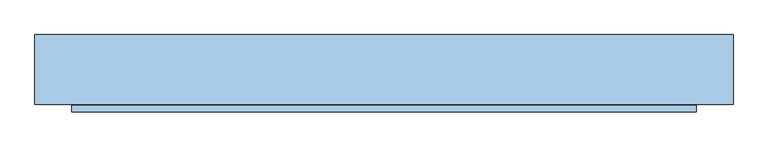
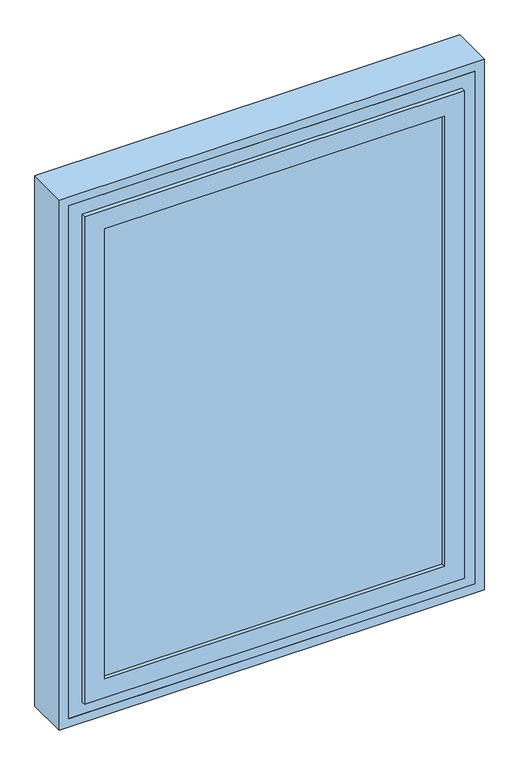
"""IFC4 building model written with IfcOpenShell, lengths in millimetres: window geometry, Окно 1-Распашное - Разделенные наружные и парные внутренние переплеты с остеклением - ГОСТ 11214-2003 : ОД РСП Г1 1760-1320-138 ГОСТ 11214-2003."""

from ifc_helpers import new_model, si_unit, frame, origin, place, context, project, spatial, polyline, outline, extrude, faceted_brep, source, transform, mapped, element, save


def window_d8f3b313(model_context):
    return source(origin(), model_context, "Body", "SolidModel", [
        extrude(outline(polyline([(2620.0, -710.0), (800.0, -710.0), (800.0, 670.0), (2620.0, 670.0), (2620.0, -710.0)]), holes=[polyline([(2590.0, 640.0), (830.0, 640.0), (830.0, -680.0), (2590.0, -680.0), (2590.0, 640.0)])]), frame((0.0, 167.0, 0.0), z_axis=(0.0, 1.0, 0.0), x_axis=(0.0, 0.0, 1.0)), (0.0, 0.0, 1.0), 138.0),
        extrude(outline(polyline([(-579.0, 271.0), (-579.0, 274.0), (539.0, 274.0), (539.0, 271.0), (-579.0, 271.0)])), frame((0.0, 0.0, 931.0), z_axis=(0.0, 0.0, 1.0), x_axis=(1.0, 0.0, 0.0)), (0.0, 0.0, 1.0), 1558.0),
        extrude(outline(polyline([(-592.0, 212.0), (-592.0, 215.0), (552.0, 215.0), (552.0, 212.0), (-592.0, 212.0)])), frame((0.0, 0.0, 918.0), z_axis=(0.0, 0.0, 1.0), x_axis=(1.0, 0.0, 0.0)), (0.0, 0.0, 1.0), 1584.0),
        extrude(outline(polyline([(-592.0, 165.0), (-592.0, 168.0), (552.0, 168.0), (552.0, 165.0), (-592.0, 165.0)])), frame((0.0, 0.0, 918.0), z_axis=(0.0, 0.0, 1.0), x_axis=(1.0, 0.0, 0.0)), (0.0, 0.0, 1.0), 1584.0),
        faceted_brep([(584.0, 259.0, 2534.0), (584.0, 246.0, 2534.0), (584.0, 246.0, 886.0), (584.0, 259.0, 886.0), (-624.0, 246.0, 2534.0), (-624.0, 246.0, 886.0), (519.0, 246.0, 951.0), (-559.0, 246.0, 951.0), (-559.0, 246.0, 2469.0), (519.0, 246.0, 2469.0), (-624.0, 259.0, 886.0), (-624.0, 259.0, 2534.0), (575.0, 259.0, 2525.0), (-615.0, 259.0, 2525.0), (-615.0, 259.0, 895.0), (575.0, 259.0, 895.0), (575.0, 287.0, 2525.0), (575.0, 287.0, 895.0), (-615.0, 287.0, 895.0), (-615.0, 287.0, 2525.0), (519.0, 287.0, 2469.0), (-559.0, 287.0, 2469.0), (-559.0, 287.0, 951.0), (519.0, 287.0, 951.0), (519.0, 271.0, 2469.0), (519.0, 271.0, 951.0), (539.0, 271.0, 931.0), (-579.0, 271.0, 931.0), (-579.0, 271.0, 2489.0), (539.0, 271.0, 2489.0), (-559.0, 271.0, 2469.0), (-559.0, 271.0, 951.0), (-559.0, 274.0, 951.0), (-559.0, 274.0, 2469.0), (519.0, 274.0, 951.0), (519.0, 274.0, 2469.0), (539.0, 274.0, 2489.0), (-579.0, 274.0, 2489.0), (-579.0, 274.0, 931.0), (539.0, 274.0, 931.0)], [[[0, 1, 2, 3]], [[1, 4, 5, 2], [6, 7, 8, 9]], [[3, 2, 5, 10]], [[3, 10, 11, 0], [12, 13, 14, 15]], [[16, 12, 15, 17]], [[17, 15, 14, 18]], [[17, 18, 19, 16], [20, 21, 22, 23]], [[9, 24, 25, 6]], [[26, 27, 28, 29], [24, 30, 31, 25]], [[6, 25, 31, 7]], [[10, 5, 4, 11]], [[18, 14, 13, 19]], [[7, 31, 30, 8]], [[32, 22, 21, 33]], [[34, 23, 22, 32]], [[35, 20, 23, 34]], [[36, 37, 38, 39], [34, 32, 33, 35]], [[29, 36, 39, 26]], [[26, 39, 38, 27]], [[27, 38, 37, 28]], [[11, 4, 1, 0]], [[19, 13, 12, 16]], [[8, 30, 24, 9]], [[33, 21, 20, 35]], [[28, 37, 36, 29]]]),
        faceted_brep([(587.0, 228.0, 2537.0), (587.0, 196.0, 2537.0), (587.0, 196.0, 883.0), (587.0, 228.0, 883.0), (-627.0, 196.0, 2537.0), (-627.0, 196.0, 883.0), (532.0, 196.0, 938.0), (-572.0, 196.0, 938.0), (-572.0, 196.0, 2482.0), (532.0, 196.0, 2482.0), (-627.0, 228.0, 883.0), (-627.0, 228.0, 2537.0), (532.0, 228.0, 2482.0), (-572.0, 228.0, 2482.0), (-572.0, 228.0, 938.0), (532.0, 228.0, 938.0), (532.0, 212.0, 2482.0), (532.0, 212.0, 938.0), (552.0, 212.0, 918.0), (-592.0, 212.0, 918.0), (-592.0, 212.0, 2502.0), (552.0, 212.0, 2502.0), (-572.0, 212.0, 2482.0), (-572.0, 212.0, 938.0), (-572.0, 215.0, 938.0), (-572.0, 215.0, 2482.0), (532.0, 215.0, 938.0), (532.0, 215.0, 2482.0), (552.0, 215.0, 2502.0), (-592.0, 215.0, 2502.0), (-592.0, 215.0, 918.0), (552.0, 215.0, 918.0)], [[[0, 1, 2, 3]], [[1, 4, 5, 2], [6, 7, 8, 9]], [[3, 2, 5, 10]], [[3, 10, 11, 0], [12, 13, 14, 15]], [[9, 16, 17, 6]], [[18, 19, 20, 21], [16, 22, 23, 17]], [[6, 17, 23, 7]], [[10, 5, 4, 11]], [[7, 23, 22, 8]], [[24, 14, 13, 25]], [[26, 15, 14, 24]], [[27, 12, 15, 26]], [[28, 29, 30, 31], [26, 24, 25, 27]], [[21, 28, 31, 18]], [[18, 31, 30, 19]], [[19, 30, 29, 20]], [[11, 4, 1, 0]], [[8, 22, 16, 9]], [[25, 13, 12, 27]], [[20, 29, 28, 21]]]),
        faceted_brep([(597.0, 165.0, 2547.0), (597.0, 152.0, 2547.0), (597.0, 152.0, 873.0), (597.0, 165.0, 873.0), (-637.0, 152.0, 2547.0), (-637.0, 152.0, 873.0), (532.0, 152.0, 938.0), (-572.0, 152.0, 938.0), (-572.0, 152.0, 2482.0), (532.0, 152.0, 2482.0), (-637.0, 165.0, 873.0), (-637.0, 165.0, 2547.0), (587.0, 165.0, 2537.0), (-627.0, 165.0, 2537.0), (-627.0, 165.0, 883.0), (587.0, 165.0, 883.0), (587.0, 194.0, 2537.0), (587.0, 194.0, 883.0), (-627.0, 194.0, 883.0), (-627.0, 194.0, 2537.0), (532.0, 194.0, 2482.0), (-572.0, 194.0, 2482.0), (-572.0, 194.0, 938.0), (532.0, 194.0, 938.0), (532.0, 165.0, 2482.0), (532.0, 165.0, 938.0), (552.0, 165.0, 918.0), (-592.0, 165.0, 918.0), (-592.0, 165.0, 2502.0), (552.0, 165.0, 2502.0), (-572.0, 165.0, 2482.0), (-572.0, 165.0, 938.0), (-572.0, 168.0, 938.0), (-572.0, 168.0, 2482.0), (532.0, 168.0, 938.0), (532.0, 168.0, 2482.0), (552.0, 168.0, 2502.0), (-592.0, 168.0, 2502.0), (-592.0, 168.0, 918.0), (552.0, 168.0, 918.0)], [[[0, 1, 2, 3]], [[1, 4, 5, 2], [6, 7, 8, 9]], [[3, 2, 5, 10]], [[3, 10, 11, 0], [12, 13, 14, 15]], [[16, 12, 15, 17]], [[17, 15, 14, 18]], [[17, 18, 19, 16], [20, 21, 22, 23]], [[9, 24, 25, 6]], [[26, 27, 28, 29], [24, 30, 31, 25]], [[6, 25, 31, 7]], [[10, 5, 4, 11]], [[18, 14, 13, 19]], [[7, 31, 30, 8]], [[32, 22, 21, 33]], [[34, 23, 22, 32]], [[35, 20, 23, 34]], [[36, 37, 38, 39], [34, 32, 33, 35]], [[29, 36, 39, 26]], [[26, 39, 38, 27]], [[27, 38, 37, 28]], [[11, 4, 1, 0]], [[19, 13, 12, 16]], [[8, 30, 24, 9]], [[33, 21, 20, 35]], [[28, 37, 36, 29]]]),
        faceted_brep([(640.0, 305.0, 830.0), (640.0, 167.0, 830.0), (-680.0, 167.0, 830.0), (-680.0, 305.0, 830.0), (640.0, 167.0, 2590.0), (640.0, 305.0, 2590.0), (-680.0, 167.0, 2590.0), (589.0, 167.0, 2539.0), (589.0, 167.0, 881.0), (-629.0, 167.0, 881.0), (-629.0, 167.0, 2539.0), (-680.0, 305.0, 2590.0), (-599.0, 305.0, 2509.0), (-599.0, 305.0, 887.1764763), (559.0, 305.0, 887.1764763), (559.0, 305.0, 2509.0), (-599.0, 289.0, 2509.0), (-599.0, 289.0, 893.0), (559.0, 289.0, 893.0), (559.0, 289.0, 2509.0), (589.0, 261.0, 2539.0), (589.0, 261.0, 881.0), (-629.0, 261.0, 881.0), (-629.0, 261.0, 2539.0), (577.0, 261.0, 2527.0), (577.0, 261.0, 893.0), (-617.0, 261.0, 893.0), (-617.0, 261.0, 2527.0), (577.0, 289.0, 2527.0), (577.0, 289.0, 893.0), (-617.0, 289.0, 893.0), (-617.0, 289.0, 2527.0)], [[[0, 1, 2, 3]], [[4, 1, 0, 5]], [[2, 1, 4, 6], [7, 8, 9, 10]], [[2, 6, 11, 3]], [[0, 3, 11, 5], [12, 13, 14, 15]], [[12, 16, 17, 13]], [[14, 13, 17, 18]], [[19, 15, 14, 18]], [[7, 20, 21, 8]], [[9, 8, 21, 22]], [[22, 23, 10, 9]], [[20, 23, 22, 21], [24, 25, 26, 27]], [[24, 28, 29, 25]], [[26, 25, 29, 18, 17, 30]], [[31, 27, 26, 30]], [[28, 31, 30, 17, 16, 19, 18, 29]], [[12, 15, 19, 16]], [[5, 11, 6, 4]], [[7, 10, 23, 20]], [[24, 27, 31, 28]]]),
    ])


if __name__ == "__main__":
    model = new_model("IFC4")
    model_context = context("Model", 3, world=origin())
    ifc_project = project(units=[si_unit("LENGTHUNIT", "METRE", prefix="MILLI")], contexts=[model_context])
    site = spatial("IfcSite", under=ifc_project)
    building = spatial("IfcBuilding", under=site)
    placement = place(None, origin())
    window_shape = window_d8f3b313(model_context)
    element("IfcWindow", 1, ObjectType="Окно 1-Распашное - Разделенные наружные и парные внутренние переплеты с остеклением - ГОСТ 11214-2003 : ОД РСП Г1 1760-1320-138 ГОСТ 11214-2003", at=placement, inside=building, context=model_context, shape_type="MappedRepresentation", body=[
        mapped(window_shape, transform((0.0, 0.0, 0.0), x_axis=(1.0, 0.0, 0.0), y_axis=(0.0, 1.0, 0.0), z_axis=(0.0, 0.0, 1.0))),
    ])
    save(model, "model.ifc")
